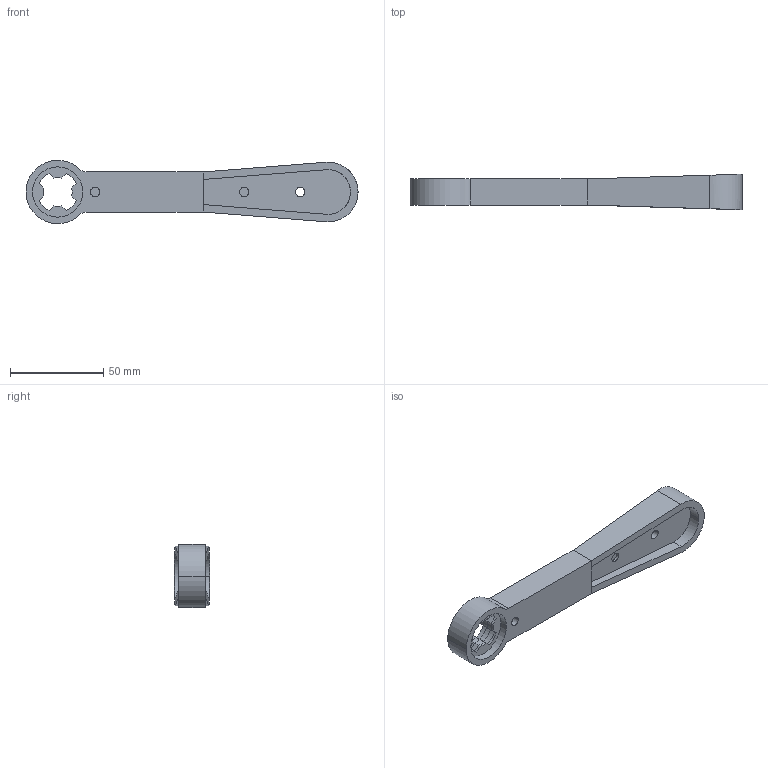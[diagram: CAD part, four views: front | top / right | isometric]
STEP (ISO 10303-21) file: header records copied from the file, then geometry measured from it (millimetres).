
FILE_DESCRIPTION (( 'STEP AP203' ), '1' );
FILE_NAME ('Ðóêîÿòêà íåñúåìíàÿ ÂÐ32 (100-400À).STEP', '2014-10-29T08:56:27', ( 'admin' ), ( '' ), 'SwSTEP 2.0', 'SolidWorks 2007', '' );
FILE_SCHEMA (( 'CONFIG_CONTROL_DESIGN' ));
Length unit declared in the file: millimetre
Products named in the file (1): Ðóêîÿòêà íåñúåìíàÿ ÂÐ32 (100-400À)
Bounding box: 178 x 19 x 33.93 mm (x, y, z)
Surface area: 24679.5 mm2 (no closed solid volume)
Topology: 0 solids, 3 shells, 109 faces, 340 edges, 238 vertices
Faces by surface type: cylinder 56, plane 53
Entity records: 3915 total; most frequent: CARTESIAN_POINT 712, DIRECTION 686, ORIENTED_EDGE 600, EDGE_CURVE 340, AXIS2_PLACEMENT_3D 241, VERTEX_POINT 238, VECTOR 204, LINE 204
